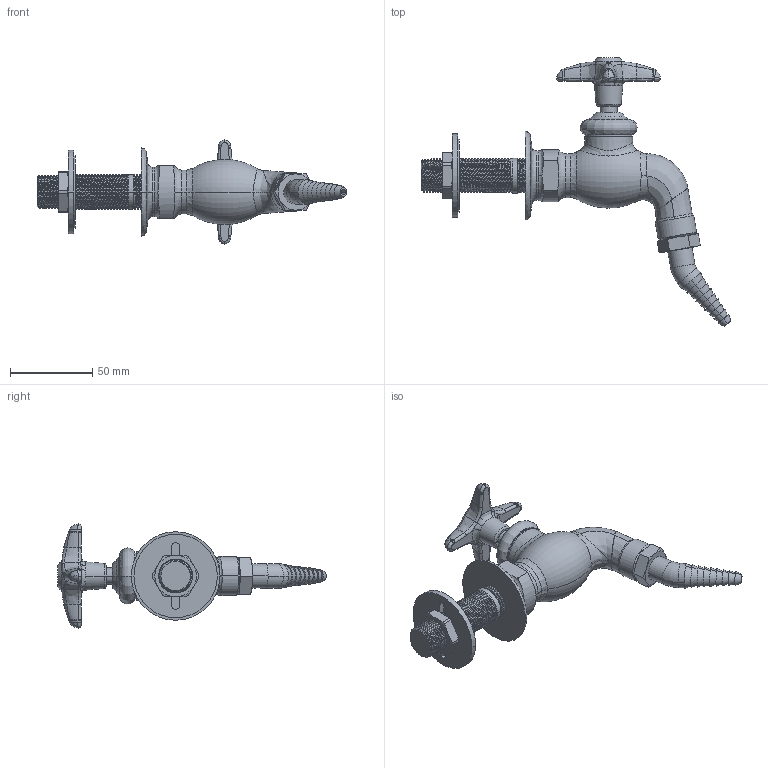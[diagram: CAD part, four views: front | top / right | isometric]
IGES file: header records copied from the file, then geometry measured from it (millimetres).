
Start section:  PTC IGES file: LWV4-B24.igs
Global section: file name: LWV4-B24.igs; native system: Creo Parametric by PTC Inc.; preprocessor: 2014500; author: usch_engrender; organization: Unknown; date: 20150915.131643; units: inch
Bounding box: 188.8 x 163.86 x 63.42 mm (x, y, z)
Volume: 145606.5 mm3; surface area: 41577.6 mm2
Topology: 1 solids, 5 shells, 531 faces, 1277 edges, 778 vertices
Faces by surface type: bspline 278, revolution 253
